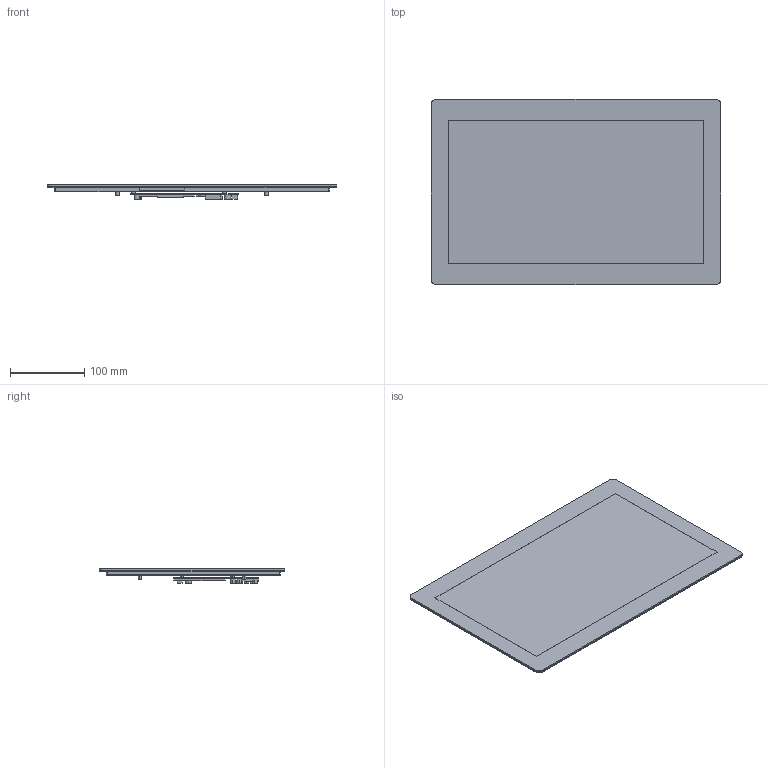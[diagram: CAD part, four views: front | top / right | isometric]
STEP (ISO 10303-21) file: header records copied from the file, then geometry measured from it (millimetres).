
FILE_DESCRIPTION((''),'2;1');
FILE_NAME('3D-DMG19108C156-05WTR','2023-01-12T',('Administrator'),(''),'PRO/ENGINEER BY PARAMETRIC TECHNOLOGY CORPORATION, 2011310','PRO/ENGINEER BY PARAMETRIC TECHNOLOGY CORPORATION, 2011310','');
FILE_SCHEMA(('CONFIG_CONTROL_DESIGN','SHAPE_APPEARANCE_LAYERS_GROUPS'));
Products named in the file (1): 3D-DMG19108C156-05WTR
Bounding box: 389.16 x 248.6 x 19.3 mm (x, y, z)
Volume: 682401.8 mm3; surface area: 555569.8 mm2
Topology: 1 solids, 2 shells, 347 faces, 25540 edges, 27498 vertices
Faces by surface type: plane 249, cylinder 98
Entity records: 264599 total; most frequent: DIRECTION 35957, PRESENTATION_STYLE_ASSIGNMENT 28094, STYLED_ITEM 28094, CARTESIAN_POINT 26522, CURVE_STYLE 26203, TRIMMED_CURVE 24593, COMPOSITE_CURVE_SEGMENT 22747, VECTOR 15825
